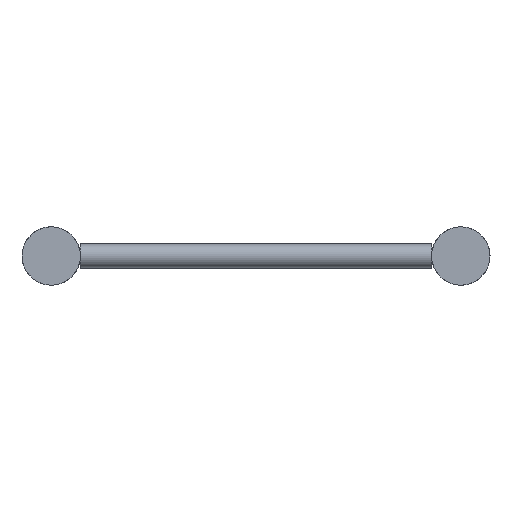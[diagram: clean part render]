
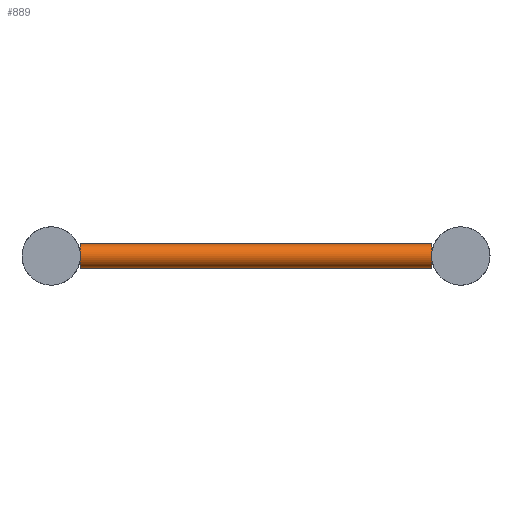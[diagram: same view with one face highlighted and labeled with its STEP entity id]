
A CAD part, left-side view. The second image highlights one B-rep face of the part: STEP entity #889.
In plain terms, the highlighted cylindrical face has radius 10 mm (diameter 20 mm), a full revolution.
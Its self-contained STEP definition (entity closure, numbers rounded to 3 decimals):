
#53=CIRCLE('',#1001,10.);
#54=CIRCLE('',#1003,10.);
#55=CIRCLE('',#1005,10.);
#56=CIRCLE('',#1007,10.);
#102=FACE_BOUND('',#294,.T.);
#153=CYLINDRICAL_SURFACE('',#1006,10.);
#203=FACE_OUTER_BOUND('',#293,.T.);
#293=EDGE_LOOP('',(#608,#609));
#294=EDGE_LOOP('',(#610,#611));
#426=VERTEX_POINT('',#1441);
#427=VERTEX_POINT('',#1442);
#428=VERTEX_POINT('',#1446);
#429=VERTEX_POINT('',#1447);
#503=EDGE_CURVE('',#427,#426,#53,.T.);
#505=EDGE_CURVE('',#429,#428,#54,.T.);
#506=EDGE_CURVE('',#426,#427,#55,.T.);
#507=EDGE_CURVE('',#428,#429,#56,.T.);
#608=ORIENTED_EDGE('',*,*,#503,.T.);
#609=ORIENTED_EDGE('',*,*,#506,.T.);
#610=ORIENTED_EDGE('',*,*,#505,.T.);
#611=ORIENTED_EDGE('',*,*,#507,.T.);
#889=ADVANCED_FACE('',(#203,#102),#153,.T.);
#1001=AXIS2_PLACEMENT_3D('',#1444,#1191,#1192);
#1003=AXIS2_PLACEMENT_3D('',#1449,#1196,#1197);
#1005=AXIS2_PLACEMENT_3D('',#1451,#1200,#1201);
#1006=AXIS2_PLACEMENT_3D('',#1452,#1202,#1203);
#1007=AXIS2_PLACEMENT_3D('',#1453,#1204,#1205);
#1191=DIRECTION('center_axis',(0.,1.,0.));
#1192=DIRECTION('ref_axis',(-1.,0.,0.));
#1196=DIRECTION('center_axis',(0.,-1.,0.));
#1197=DIRECTION('ref_axis',(-1.,0.,0.));
#1200=DIRECTION('center_axis',(0.,1.,0.));
#1201=DIRECTION('ref_axis',(-1.,0.,0.));
#1202=DIRECTION('center_axis',(0.,1.,0.));
#1203=DIRECTION('ref_axis',(-1.,0.,0.));
#1204=DIRECTION('center_axis',(0.,-1.,0.));
#1205=DIRECTION('ref_axis',(-1.,0.,0.));
#1441=CARTESIAN_POINT('',(50.,24.15,0.));
#1442=CARTESIAN_POINT('',(70.,24.15,0.));
#1444=CARTESIAN_POINT('Origin',(60.,24.15,0.));
#1446=CARTESIAN_POINT('',(50.,314.85,0.));
#1447=CARTESIAN_POINT('',(70.,314.85,0.));
#1449=CARTESIAN_POINT('Origin',(60.,314.85,0.));
#1451=CARTESIAN_POINT('Origin',(60.,24.15,0.));
#1452=CARTESIAN_POINT('Origin',(60.,169.5,0.));
#1453=CARTESIAN_POINT('Origin',(60.,314.85,0.));
